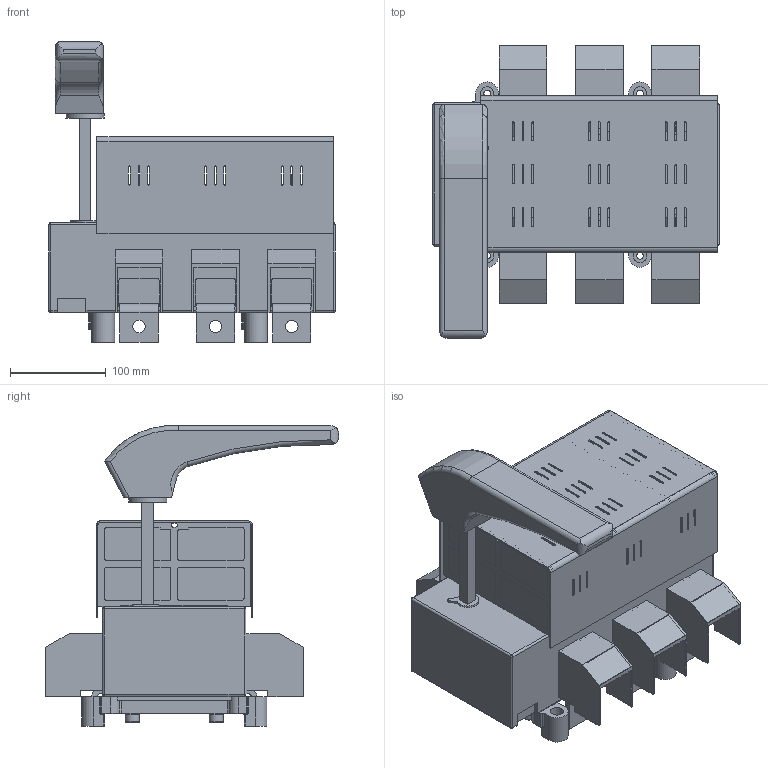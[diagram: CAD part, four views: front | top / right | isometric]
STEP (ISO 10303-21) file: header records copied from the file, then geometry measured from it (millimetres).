
FILE_DESCRIPTION(/* description */ (''),/* implementation_level */ '2;1');
FILE_NAME(/* name */ 'RAB 3 P3 C-R z oslona zaciskow.stp',/* time_stamp */ '2021-08-19T15:11:28+02:00',/* author */ (''),/* organization */ (''),/* preprocessor_version */ 'ST-DEVELOPER v18.1',/* originating_system */ 'SIEMENS PLM Software NX 1965',/* authorisation */ '');
FILE_SCHEMA (('AUTOMOTIVE_DESIGN { 1 0 10303 214 3 1 1 1 }'));
Length unit declared in the file: millimetre
Products named in the file (1): RAB 3 P3 C-R z oslona zaciskow_stp
Bounding box: 300 x 307 x 314.5 mm (x, y, z)
Volume: 5026912.1 mm3; surface area: 804440.1 mm2
Topology: 1 solids, 13 shells, 1746 faces, 4764 edges, 3063 vertices
Faces by surface type: plane 1056, cylinder 574, torus 50, bspline 50, cone 8, sphere 8
Full cylindrical faces by diameter (mm): 3 x4, 4.8 x4, 5.6 x4, 6.5 x26, 7 x4, 10.5 x26, 13 x6, 13.5 x4, 14 x4, 15 x4, 40 x1
Entity records: 57041 total; most frequent: CARTESIAN_POINT 12639, ORIENTED_EDGE 9226, DIRECTION 9124, EDGE_CURVE 4613, LINE 3228, VECTOR 3228, VERTEX_POINT 3035, AXIS2_PLACEMENT_3D 2948
